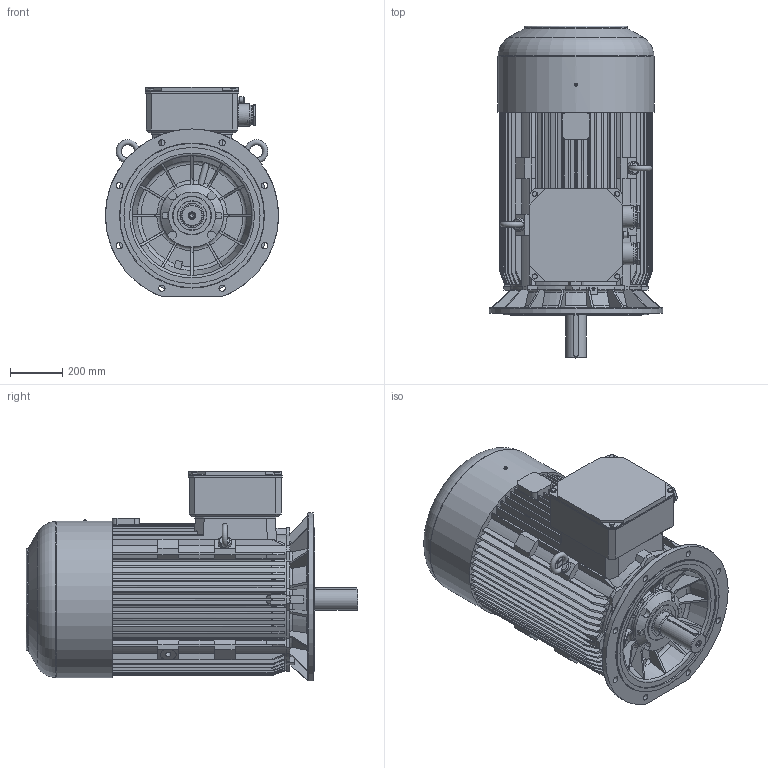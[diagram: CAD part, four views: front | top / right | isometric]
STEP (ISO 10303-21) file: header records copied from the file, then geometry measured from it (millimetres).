
FILE_DESCRIPTION(/* description */ ('Unknown'),/* implementation_level */ '2;1');
FILE_NAME(/* name */ '3SIEK315S4_8,M4A_B, 6A, 8A_B',/* time_stamp */ '2021-04-12T14:41:26+02:00',/* author */ ('Unknown'),/* organization */ ('Unknown'),/* preprocessor_version */ 'ST-DEVELOPER v16.7',/* originating_system */ 'DEX',/* authorisation */ $);
FILE_SCHEMA (('AUTOMOTIVE_DESIGN {1 0 10303 214 3 1 1}'));
Length unit declared in the file: millimetre
Products named in the file (1): 2SIEK315_S4-F WISTRO
Bounding box: 660 x 1264.99 x 799.5 mm (x, y, z)
Volume: 270284905.4 mm3; surface area: 6595813.6 mm2
Topology: 3 solids, 19 shells, 1429 faces, 3834 edges, 2494 vertices
Faces by surface type: plane 857, cylinder 297, cone 151, torus 108, bspline 16
Full cylindrical faces by diameter (mm): 1.6 x2, 5 x4, 8 x1, 10 x1, 10.106 x4, 13.835 x1, 16.63 x4, 17.294 x1, 20 x1, 20.752 x2, 21 x1, 22 x1, 24 x8, 36 x1, 50 x2, 55 x2, 57 x4, 65 x4, 70 x2, 71 x6, 72 x2, 72.752 x2, 76 x2, 79.999 x1, 85 x2, 89.5 x1, 90 x1, 99.4 x1, 100 x1, 111.399 x1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
Entity records: 55709 total; most frequent: CARTESIAN_POINT 11199, ORIENTED_EDGE 7260, DIRECTION 6966, EDGE_CURVE 3630, AXIS2_PLACEMENT_3D 2466, VERTEX_POINT 2439, LINE 2034, VECTOR 2034
